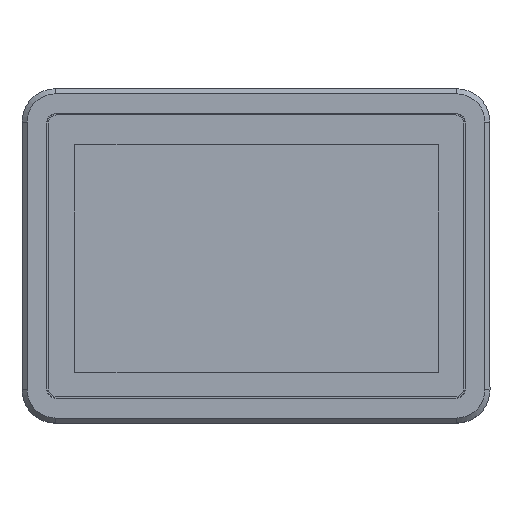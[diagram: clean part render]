
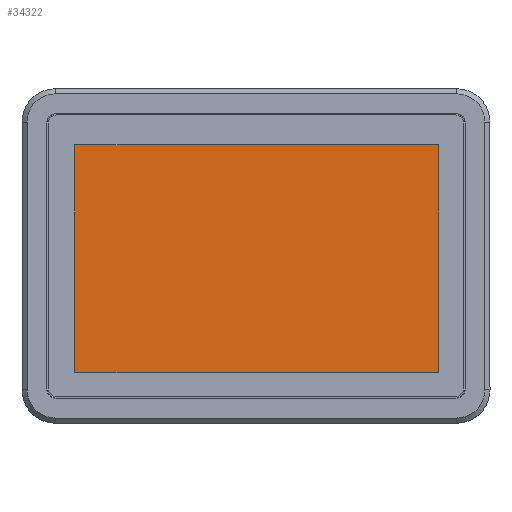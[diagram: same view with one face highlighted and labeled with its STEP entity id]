
A CAD part, top view. The second image highlights one B-rep face of the part: STEP entity #34322.
In plain terms, the highlighted planar face has unit normal (0, 0, 1).
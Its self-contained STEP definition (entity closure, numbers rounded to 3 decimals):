
#768=PLANE('',#36547);
#2077=FACE_OUTER_BOUND('',#3973,.T.);
#3973=EDGE_LOOP('',(#24305,#24306,#24307,#24308));
#7847=LINE('',#52186,#11220);
#7848=LINE('',#52188,#11221);
#7849=LINE('',#52190,#11222);
#7850=LINE('',#52191,#11223);
#11220=VECTOR('',#40847,1000.);
#11221=VECTOR('',#40848,1000.);
#11222=VECTOR('',#40849,1000.);
#11223=VECTOR('',#40850,1000.);
#14631=VERTEX_POINT('',#52184);
#14632=VERTEX_POINT('',#52185);
#14633=VERTEX_POINT('',#52187);
#14634=VERTEX_POINT('',#52189);
#18283=EDGE_CURVE('',#14631,#14632,#7847,.T.);
#18284=EDGE_CURVE('',#14633,#14631,#7848,.T.);
#18285=EDGE_CURVE('',#14634,#14633,#7849,.T.);
#18286=EDGE_CURVE('',#14632,#14634,#7850,.T.);
#24305=ORIENTED_EDGE('',*,*,#18283,.T.);
#24306=ORIENTED_EDGE('',*,*,#18286,.T.);
#24307=ORIENTED_EDGE('',*,*,#18285,.T.);
#24308=ORIENTED_EDGE('',*,*,#18284,.T.);
#34322=ADVANCED_FACE('',(#2077),#768,.F.);
#36547=AXIS2_PLACEMENT_3D('',#52192,#40851,#40852);
#40847=DIRECTION('',(0.,1.,0.));
#40848=DIRECTION('',(1.,0.,0.));
#40849=DIRECTION('',(0.,-1.,0.));
#40850=DIRECTION('',(-1.,0.,0.));
#40851=DIRECTION('center_axis',(0.,0.,
-1.));
#40852=DIRECTION('ref_axis',(1.,0.,0.));
#52184=CARTESIAN_POINT('',(109.35,-69.865,0.));
#52185=CARTESIAN_POINT('',(109.35,66.535,0.));
#52186=CARTESIAN_POINT('',(109.35,66.535,0.));
#52187=CARTESIAN_POINT('',(-108.35,-69.865,0.));
#52188=CARTESIAN_POINT('',(109.35,-69.865,0.));
#52189=CARTESIAN_POINT('',(-108.35,66.535,0.));
#52190=CARTESIAN_POINT('',(-108.35,-69.865,0.));
#52191=CARTESIAN_POINT('',(-108.35,66.535,0.));
#52192=CARTESIAN_POINT('Origin',(124.38,84.365,0.));
